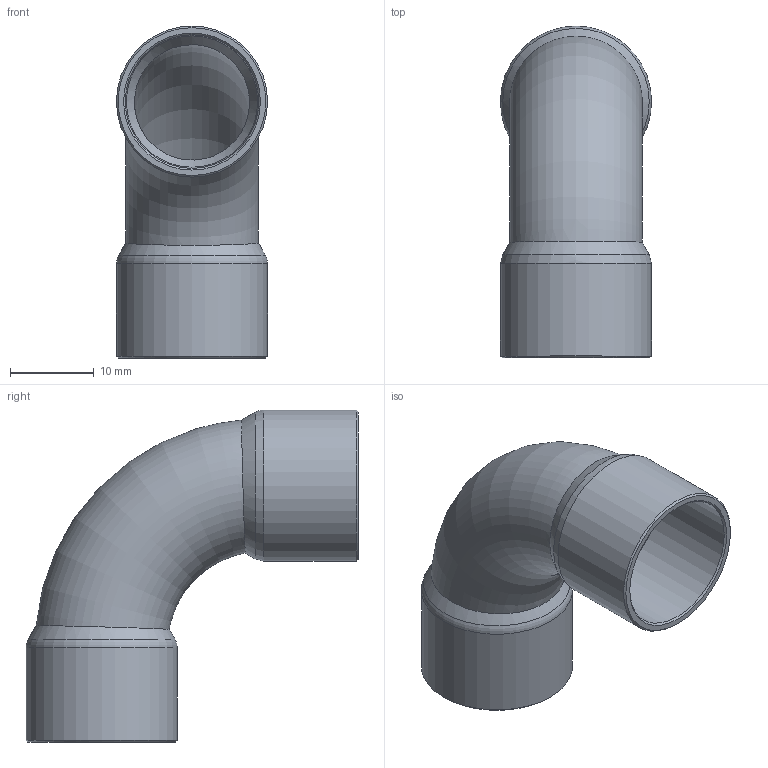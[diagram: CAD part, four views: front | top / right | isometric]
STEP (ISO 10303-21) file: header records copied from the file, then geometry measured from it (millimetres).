
FILE_DESCRIPTION((''),'2;1');
FILE_NAME('G:\SANHA-Ternat\Technik\Management\Bouwmaten + markeringen\z-maattekeningen 3D\29000s\29002A58_3d.stp','2017-07-26T08:41:24',('vdvijverd'),(''),'Autodesk Inventor 2009','Autodesk Inventor 2009','');
FILE_SCHEMA(('AUTOMOTIVE_DESIGN { 1 0 10303 214 1 1 1 1 }'));
Length unit declared in the file: millimetre
Products named in the file (1): 29002A58_3d
Bounding box: 18.09 x 39.75 x 39.75 mm (x, y, z)
Volume: 2810.9 mm3; surface area: 5449.3 mm2
Topology: 1 solids, 1 shells, 20 faces, 38 edges, 20 vertices
Faces by surface type: bspline 8, cone 6, torus 3, cylinder 2, plane 1
Full cylindrical faces by diameter (mm): 15.995 x1, 18.095 x1
Entity records: 738 total; most frequent: CARTESIAN_POINT 408, DIRECTION 58, ORIENTED_EDGE 40, EDGE_LOOP 40, AXIS2_PLACEMENT_3D 29, VERTEX_POINT 20, EDGE_CURVE 20, FACE_OUTER_BOUND 20
